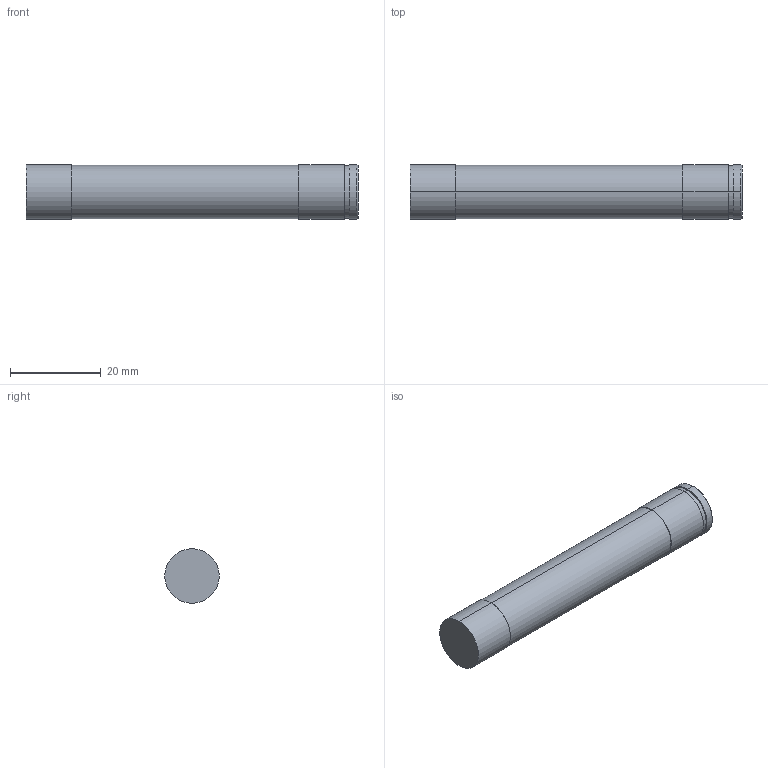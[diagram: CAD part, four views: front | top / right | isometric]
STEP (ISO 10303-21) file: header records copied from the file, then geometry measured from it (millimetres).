
FILE_DESCRIPTION (( 'STEP AP203' ), '1' );
FILE_NAME ('S7-12.STEP', '2002-08-16T10:51:36', ( '.' ), ( '.' ), 'SwSTEP 2.0', 'SolidWorks 2001340', '' );
FILE_SCHEMA (( 'CONFIG_CONTROL_DESIGN' ));
Length unit declared in the file: millimetre
Products named in the file (1): S7-12
Bounding box: 73 x 12 x 12 mm (x, y, z)
Volume: 8057.9 mm3; surface area: 2965.4 mm2
Topology: 1 solids, 1 shells, 18 faces, 34 edges, 22 vertices
Faces by surface type: cylinder 10, plane 6, cone 2
Entity records: 541 total; most frequent: DIRECTION 94, CARTESIAN_POINT 75, ORIENTED_EDGE 68, AXIS2_PLACEMENT_3D 41, EDGE_CURVE 34, EDGE_LOOP 22, VERTEX_POINT 22, CIRCLE 22
